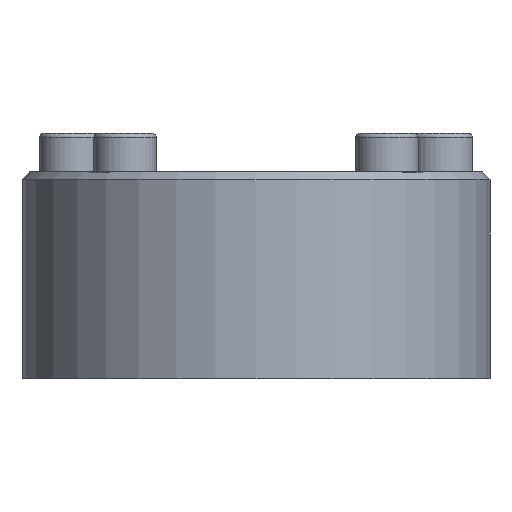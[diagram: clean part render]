
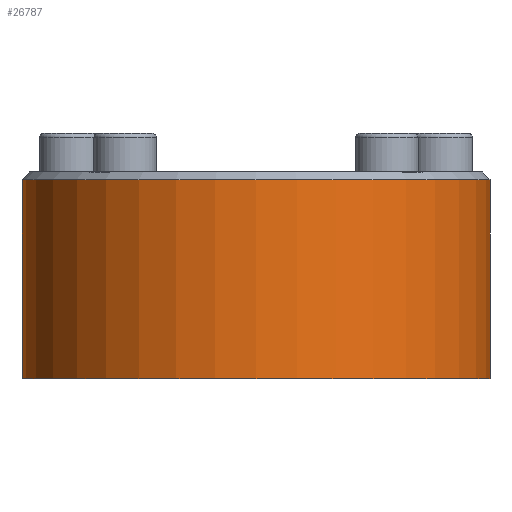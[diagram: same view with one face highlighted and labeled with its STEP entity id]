
A CAD part, front view. The second image highlights one B-rep face of the part: STEP entity #26787.
In plain terms, the highlighted cylindrical face has radius 60 mm (diameter 120 mm), a partial arc.
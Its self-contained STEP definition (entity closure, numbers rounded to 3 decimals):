
#2548=FACE_OUTER_BOUND('',#3984,.T.);
#3984=EDGE_LOOP('',(#17672,#17673,#17674,#17675));
#5598=CIRCLE('',#28226,60.);
#5599=CIRCLE('',#28227,60.);
#5672=LINE('',#34250,#8475);
#5673=LINE('',#34254,#8476);
#8475=VECTOR('',#29301,51.);
#8476=VECTOR('',#29304,51.);
#11278=VERTEX_POINT('',#34248);
#11279=VERTEX_POINT('',#34249);
#11280=VERTEX_POINT('',#34251);
#11281=VERTEX_POINT('',#34253);
#13847=EDGE_CURVE('',#11278,#11279,#5672,.T.);
#13848=EDGE_CURVE('',#11280,#11278,#5598,.T.);
#13849=EDGE_CURVE('',#11281,#11280,#5673,.T.);
#13850=EDGE_CURVE('',#11279,#11281,#5599,.T.);
#17672=ORIENTED_EDGE('',*,*,#13847,.F.);
#17673=ORIENTED_EDGE('',*,*,#13848,.F.);
#17674=ORIENTED_EDGE('',*,*,#13849,.F.);
#17675=ORIENTED_EDGE('',*,*,#13850,.F.);
#25322=CYLINDRICAL_SURFACE('',#28225,60.);
#26787=ADVANCED_FACE('',(#2548),#25322,.T.);
#28225=AXIS2_PLACEMENT_3D('',#34247,#29299,#29300);
#28226=AXIS2_PLACEMENT_3D('',#34252,#29302,#29303);
#28227=AXIS2_PLACEMENT_3D('',#34255,#29305,#29306);
#29299=DIRECTION('center_axis',(0.,0.,
1.));
#29300=DIRECTION('ref_axis',(1.,0.,0.));
#29301=DIRECTION('',(0.,0.,1.));
#29302=DIRECTION('center_axis',(0.,0.,
-1.));
#29303=DIRECTION('ref_axis',(1.,0.,0.));
#29304=DIRECTION('',(0.,0.,-1.));
#29305=DIRECTION('center_axis',(0.,0.,
1.));
#29306=DIRECTION('ref_axis',(-1.,0.,0.));
#34247=CARTESIAN_POINT('Origin',(0.,-145.,-43.25));
#34248=CARTESIAN_POINT('',(-60.,-145.,-43.25));
#34249=CARTESIAN_POINT('',(-60.,-145.,7.75));
#34250=CARTESIAN_POINT('',(-60.,-145.,-43.25));
#34251=CARTESIAN_POINT('',(60.,-145.,-43.25));
#34252=CARTESIAN_POINT('Origin',(0.,-145.,-43.25));
#34253=CARTESIAN_POINT('',(60.,-145.,7.75));
#34254=CARTESIAN_POINT('',(60.,-145.,9.75));
#34255=CARTESIAN_POINT('Origin',(0.,-145.,7.75));
